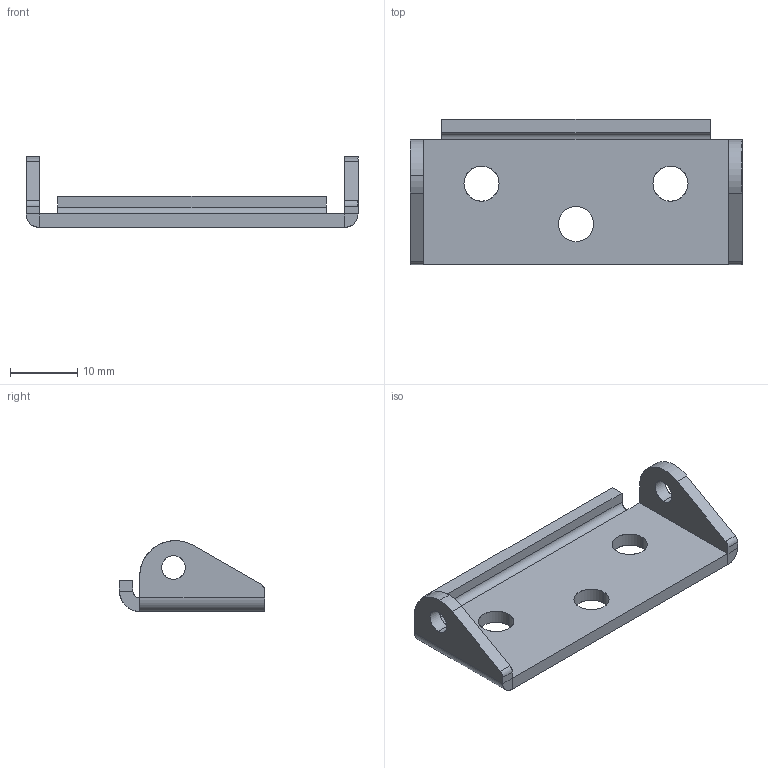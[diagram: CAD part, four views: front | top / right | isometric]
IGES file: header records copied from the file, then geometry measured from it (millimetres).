
Start section: SolidWorks IGES FILE using analytic representation for surfaces
Global section: file name: C:\Documents and Settings\lecoutey\Bureau\GE 1040\40.020.00.IGS; native system: SolidWorks 2004 by SolidWorks Corporation; preprocessor: Version 5.3; author: lecoutey; date: 050330.085555; units: millimetre
Bounding box: 49.2 x 21.5 x 10.5 mm (x, y, z)
Surface area: 2910.4 mm2 (no closed solid volume)
Topology: 0 solids, 0 shells, 45 faces, 628 edges, 628 vertices
Faces by surface type: bspline 26, revolution 19
